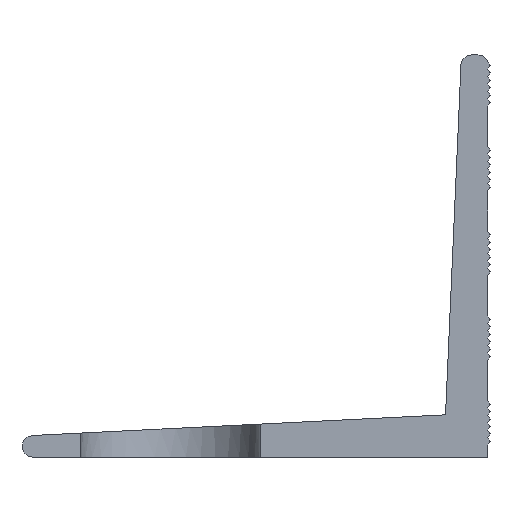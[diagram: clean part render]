
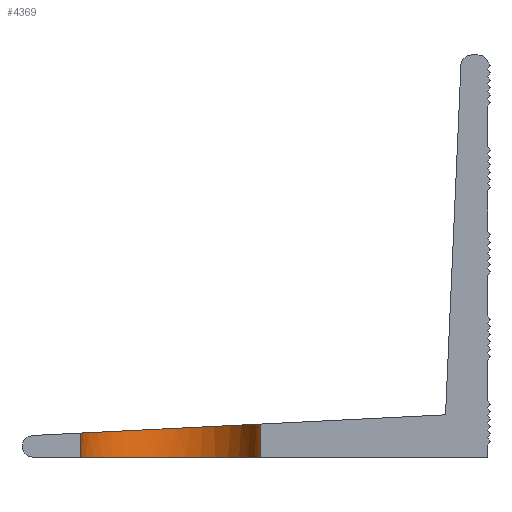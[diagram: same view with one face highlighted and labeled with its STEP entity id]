
A CAD part, left-side view. The second image highlights one B-rep face of the part: STEP entity #4369.
In plain terms, the highlighted cylindrical face has radius 8.5 mm (diameter 17 mm), a partial arc.
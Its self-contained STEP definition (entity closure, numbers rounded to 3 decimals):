
#4369=ADVANCED_FACE('',(#9268),#9270,.F.);
#9268=FACE_BOUND('',#9269,.T.);
#9269=EDGE_LOOP('',(#13578,#13579,#13580,#13581));
#9270=CYLINDRICAL_SURFACE('',#9271,8.5);
#9271=AXIS2_PLACEMENT_3D('',#9272,#9273,#9274);
#9272=CARTESIAN_POINT('',(0.,30.,20.));
#9273=DIRECTION('',(0.,0.,-1.));
#9274=DIRECTION('',(0.,1.,0.));
#13578=ORIENTED_EDGE('',*,*,#14704,.F.);
#13579=ORIENTED_EDGE('',*,*,#15859,.F.);
#13580=ORIENTED_EDGE('',*,*,#14758,.F.);
#13581=ORIENTED_EDGE('',*,*,#15211,.F.);
#14704=EDGE_CURVE('',#17087,#17089,#17090,.T.);
#14758=EDGE_CURVE('',#17192,#17194,#17195,.F.);
#15211=EDGE_CURVE('',#17089,#17192,#18097,.T.);
#15859=EDGE_CURVE('',#17194,#17087,#18944,.F.);
#17087=VERTEX_POINT('',#21579);
#17089=VERTEX_POINT('',#21583);
#17090=(BOUNDED_CURVE()B_SPLINE_CURVE(3,
(#21584,#21585,#21586,#21587),
.UNSPECIFIED.,.F.,.F.)B_SPLINE_CURVE_WITH_KNOTS((4,4),
(0.,1.),
.UNSPECIFIED.)CURVE()GEOMETRIC_REPRESENTATION_ITEM()RATIONAL_B_SPLINE_CURVE((1.,
0.333,0.333,1.))REPRESENTATION_ITEM(''));
#17192=VERTEX_POINT('',#21989);
#17194=VERTEX_POINT('',#21993);
#17195=CIRCLE('',#21994,8.5);
#18097=LINE('',#24002,#24003);
#18944=LINE('',#26344,#26345);
#21579=CARTESIAN_POINT('',(0.,38.5,2.275));
#21583=CARTESIAN_POINT('',(0.,21.5,3.125));
#21584=CARTESIAN_POINT('',(0.,38.5,2.275));
#21585=CARTESIAN_POINT('',(17.,38.5,2.275));
#21586=CARTESIAN_POINT('',(17.,21.5,3.125));
#21587=CARTESIAN_POINT('',(0.,21.5,3.125));
#21989=CARTESIAN_POINT('',(0.,21.5,0.));
#21993=CARTESIAN_POINT('',(0.,38.5,0.));
#21994=AXIS2_PLACEMENT_3D('',#21995,#21996,#21997);
#21995=CARTESIAN_POINT('',(0.,30.,0.));
#21996=DIRECTION('',(0.,0.,-1.));
#21997=DIRECTION('',(0.,1.,0.));
#24002=CARTESIAN_POINT('',(0.,21.5,3.125));
#24003=VECTOR('',#24004,1.);
#24004=DIRECTION('',(0.,0.,-1.));
#26344=CARTESIAN_POINT('',(0.,38.5,2.275));
#26345=VECTOR('',#26346,1.);
#26346=DIRECTION('',(0.,0.,-1.));
